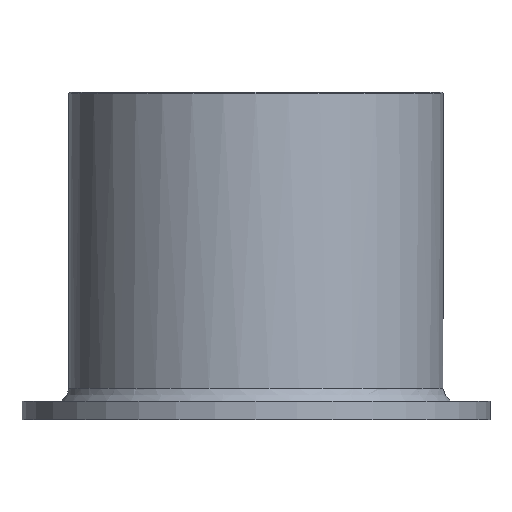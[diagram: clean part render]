
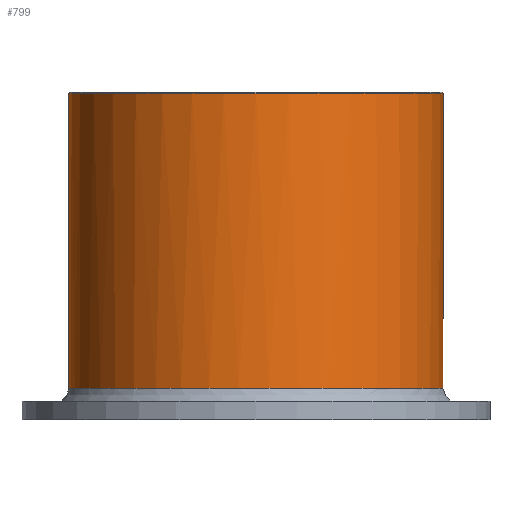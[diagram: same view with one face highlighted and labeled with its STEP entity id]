
A CAD part, front view. The second image highlights one B-rep face of the part: STEP entity #799.
In plain terms, the highlighted cylindrical face has radius 40 mm (diameter 80 mm), a full revolution.
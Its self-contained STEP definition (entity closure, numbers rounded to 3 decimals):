
#272=CYLINDRICAL_SURFACE('',#3730,40.);
#340=FACE_BOUND('',#1188,.T.);
#341=FACE_BOUND('',#1189,.T.);
#614=CIRCLE('',#3728,40.);
#799=ADVANCED_FACE('',(#340,#341),#272,.T.);
#1188=EDGE_LOOP('',(#2238));
#1189=EDGE_LOOP('',(#2239));
#1327=(
BOUNDED_CURVE()
B_SPLINE_CURVE(3,(#6616,#6617,#6618,#6619,#6620,#6621,#6622),
 .UNSPECIFIED.,.T.,.F.)
B_SPLINE_CURVE_WITH_KNOTS((1,3,3,3,1),(-0.5,0.,0.5,1.,1.5),
 .UNSPECIFIED.)
CURVE()
GEOMETRIC_REPRESENTATION_ITEM()
RATIONAL_B_SPLINE_CURVE((1.,0.333,0.333,1.,0.333,
0.333,1.))
REPRESENTATION_ITEM('')
);
#2238=ORIENTED_EDGE('',*,*,#3088,.F.);
#2239=ORIENTED_EDGE('',*,*,#3087,.T.);
#2605=VERTEX_POINT('',#6614);
#2606=VERTEX_POINT('',#6623);
#3087=EDGE_CURVE('',#2605,#2605,#614,.T.);
#3088=EDGE_CURVE('',#2606,#2606,#1327,.T.);
#3728=AXIS2_PLACEMENT_3D('',#6613,#4649,#4650);
#3730=AXIS2_PLACEMENT_3D('',#6624,#4653,#4654);
#4649=DIRECTION('',(0.,0.,-1.));
#4650=DIRECTION('',(-1.,0.,0.));
#4653=DIRECTION('',(0.,0.,-1.));
#4654=DIRECTION('',(-1.,0.,0.));
#6613=CARTESIAN_POINT('',(81.676,34.681,96.494));
#6614=CARTESIAN_POINT('',(41.676,34.681,96.494));
#6616=CARTESIAN_POINT('',(41.676,34.681,33.392));
#6617=CARTESIAN_POINT('',(41.676,114.681,33.392));
#6618=CARTESIAN_POINT('',(121.676,114.681,33.392));
#6619=CARTESIAN_POINT('',(121.676,34.681,33.392));
#6620=CARTESIAN_POINT('',(121.676,-45.318,33.392));
#6621=CARTESIAN_POINT('',(41.676,-45.318,33.392));
#6622=CARTESIAN_POINT('',(41.676,34.681,33.392));
#6623=CARTESIAN_POINT('',(41.676,34.681,33.392));
#6624=CARTESIAN_POINT('',(81.676,34.681,30.072));
